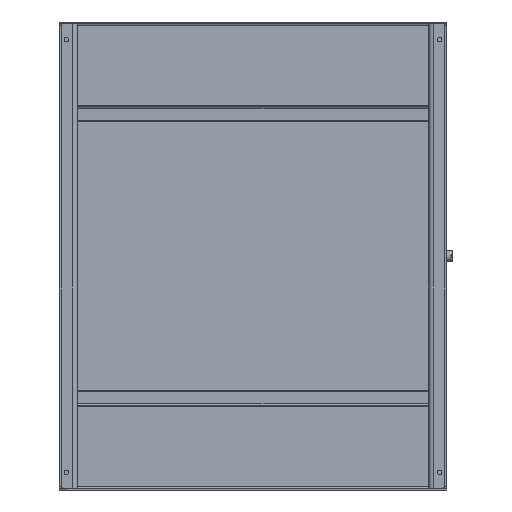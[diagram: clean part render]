
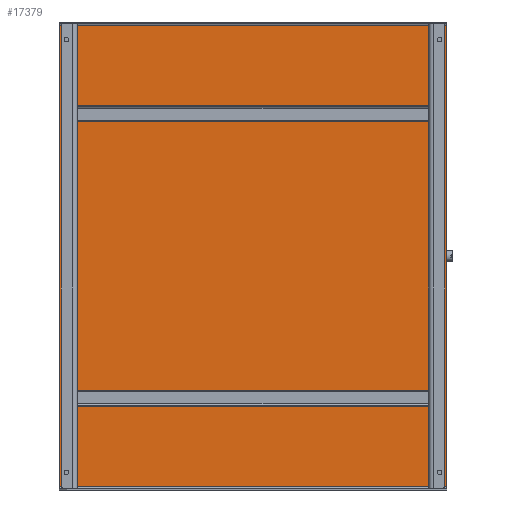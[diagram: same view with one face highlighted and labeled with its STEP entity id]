
A CAD part, front view. The second image highlights one B-rep face of the part: STEP entity #17379.
In plain terms, the highlighted planar face has unit normal (0, -1, 0).
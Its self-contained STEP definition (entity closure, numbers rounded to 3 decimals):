
#3855 = ORIENTED_EDGE ( 'NONE', *, *, #37256, .F. ) ;
#4881 = VECTOR ( 'NONE', #12666, 39.37 ) ;
#5856 = CARTESIAN_POINT ( 'NONE',  ( 14.467, -12.607, -31.311 ) ) ;
#7047 = EDGE_CURVE ( 'NONE', #32688, #72800, #47830, .T. ) ;
#10043 = CARTESIAN_POINT ( 'NONE',  ( 14.467, -12.607, 26.26 ) ) ;
#12552 = CARTESIAN_POINT ( 'NONE',  ( -33.533, -12.607, 25.831 ) ) ;
#12666 = DIRECTION ( 'NONE',  ( -1., 0., 0. ) ) ;
#17311 = EDGE_CURVE ( 'NONE', #55953, #32688, #22995, .T. ) ;
#17379 = ADVANCED_FACE ( 'NONE', ( #36806 ), #20426, .T. ) ;
#19096 = LINE ( 'NONE', #68352, #21223 ) ;
#20426 = PLANE ( 'NONE',  #72401 ) ;
#21223 = VECTOR ( 'NONE', #48010, 39.37 ) ;
#21916 = EDGE_CURVE ( 'NONE', #72800, #51782, #19096, .T. ) ;
#22995 = LINE ( 'NONE', #5856, #4881 ) ;
#24444 = DIRECTION ( 'NONE',  ( 0., 0., 1. ) ) ;
#29794 = VECTOR ( 'NONE', #24444, 39.37 ) ;
#32688 = VERTEX_POINT ( 'NONE', #40879 ) ;
#33014 = CARTESIAN_POINT ( 'NONE',  ( 14.467, -12.607, -31.311 ) ) ;
#34110 = DIRECTION ( 'NONE',  ( 0., -1., 0. ) ) ;
#35806 = ORIENTED_EDGE ( 'NONE', *, *, #17311, .F. ) ;
#35927 = LINE ( 'NONE', #10043, #69721 ) ;
#36806 = FACE_OUTER_BOUND ( 'NONE', #39786, .T. ) ;
#37256 = EDGE_CURVE ( 'NONE', #51782, #55953, #35927, .T. ) ;
#39786 = EDGE_LOOP ( 'NONE', ( #39984, #35806, #3855, #48532 ) ) ;
#39984 = ORIENTED_EDGE ( 'NONE', *, *, #7047, .F. ) ;
#40879 = CARTESIAN_POINT ( 'NONE',  ( -33.533, -12.607, -31.311 ) ) ;
#44230 = DIRECTION ( 'NONE',  ( 0., 0., -1. ) ) ;
#47830 = LINE ( 'NONE', #51414, #29794 ) ;
#48010 = DIRECTION ( 'NONE',  ( 1., 0., 0. ) ) ;
#48532 = ORIENTED_EDGE ( 'NONE', *, *, #21916, .F. ) ;
#51414 = CARTESIAN_POINT ( 'NONE',  ( -33.533, -12.607, 26.26 ) ) ;
#51782 = VERTEX_POINT ( 'NONE', #76312 ) ;
#55953 = VERTEX_POINT ( 'NONE', #33014 ) ;
#68352 = CARTESIAN_POINT ( 'NONE',  ( -33.533, -12.607, 25.831 ) ) ;
#69721 = VECTOR ( 'NONE', #44230, 39.37 ) ;
#72401 = AXIS2_PLACEMENT_3D ( 'NONE', #87866, #34110, #81422 ) ;
#72800 = VERTEX_POINT ( 'NONE', #12552 ) ;
#76312 = CARTESIAN_POINT ( 'NONE',  ( 14.467, -12.607, 25.831 ) ) ;
#81422 = DIRECTION ( 'NONE',  ( 0., 0., -1. ) ) ;
#87866 = CARTESIAN_POINT ( 'NONE',  ( -33.533, -12.607, -31.74 ) ) ;
